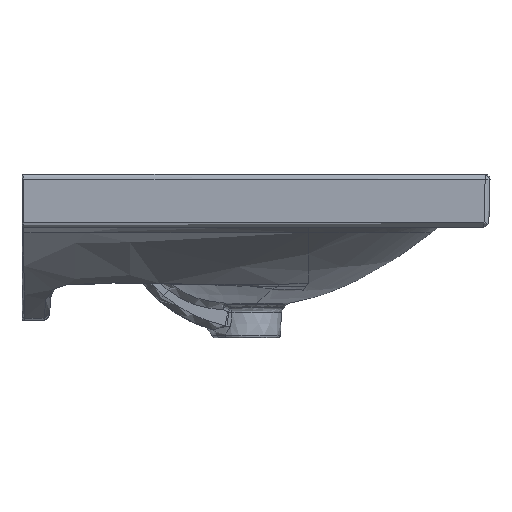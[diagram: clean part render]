
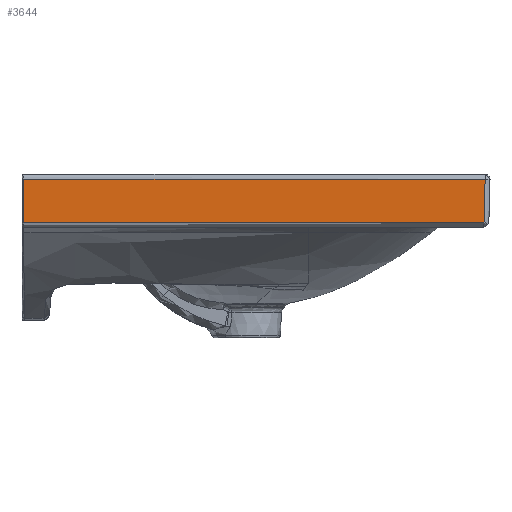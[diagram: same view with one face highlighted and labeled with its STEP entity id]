
A CAD part, left-side view. The second image highlights one B-rep face of the part: STEP entity #3644.
In plain terms, the highlighted planar face has unit normal (-1, 0, -0.026).
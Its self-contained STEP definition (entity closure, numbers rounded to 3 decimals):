
#26=LINE('',#9017,#142);
#54=LINE('',#14544,#170);
#56=LINE('',#14550,#172);
#57=LINE('',#14551,#173);
#142=VECTOR('',#4180,45.031);
#170=VECTOR('',#4310,471.689);
#172=VECTOR('',#4316,472.867);
#173=VECTOR('',#4317,45.015);
#259=PLANE('',#3911);
#675=FACE_OUTER_BOUND('',#909,.T.);
#909=EDGE_LOOP('',(#2481,#2482,#2483,#2484));
#1372=VERTEX_POINT('',#8891);
#1373=VERTEX_POINT('',#9015);
#1442=VERTEX_POINT('',#14543);
#1444=VERTEX_POINT('',#14549);
#1716=EDGE_CURVE('',#1373,#1372,#26,.T.);
#1823=EDGE_CURVE('',#1372,#1442,#54,.T.);
#1826=EDGE_CURVE('',#1373,#1444,#56,.T.);
#1827=EDGE_CURVE('',#1444,#1442,#57,.T.);
#2481=ORIENTED_EDGE('',*,*,#1716,.F.);
#2482=ORIENTED_EDGE('',*,*,#1826,.T.);
#2483=ORIENTED_EDGE('',*,*,#1827,.T.);
#2484=ORIENTED_EDGE('',*,*,#1823,.F.);
#3644=ADVANCED_FACE('',(#675),#259,.F.);
#3911=AXIS2_PLACEMENT_3D('',#14548,#4314,#4315);
#4180=DIRECTION('',(0.026,0.026,-0.999));
#4310=DIRECTION('',(0.,1.,0.));
#4314=DIRECTION('center_axis',(1.,0.,
0.026));
#4315=DIRECTION('ref_axis',(0.,1.,0.));
#4316=DIRECTION('',(0.,1.,0.));
#4317=DIRECTION('',(0.026,0.,-1.));
#8891=CARTESIAN_POINT('',(-298.687,-473.689,799.869));
#9015=CARTESIAN_POINT('',(-299.866,-474.867,844.869));
#9017=CARTESIAN_POINT('',(-299.866,-474.867,844.869));
#14543=CARTESIAN_POINT('',(-298.687,-2.,799.869));
#14544=CARTESIAN_POINT('',(-298.687,-238.434,799.869));
#14548=CARTESIAN_POINT('Origin',(-298.664,-484.325,798.969));
#14549=CARTESIAN_POINT('',(-299.866,-2.,844.869));
#14550=CARTESIAN_POINT('',(-299.866,7.457,844.869));
#14551=CARTESIAN_POINT('',(-299.889,-2.,845.769));
